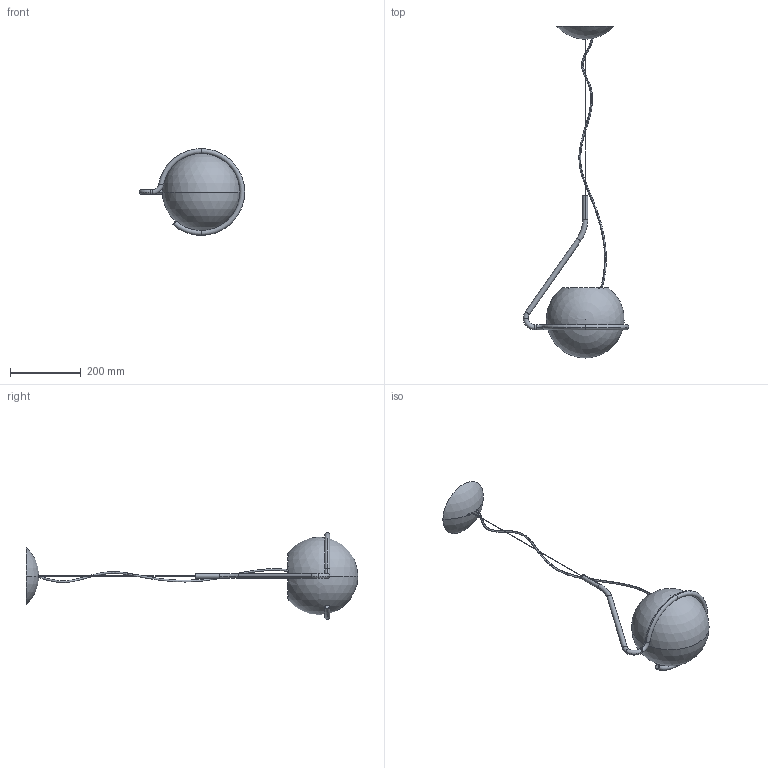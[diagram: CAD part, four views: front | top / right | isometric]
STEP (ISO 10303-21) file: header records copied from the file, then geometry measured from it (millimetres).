
FILE_DESCRIPTION (( 'STEP AP203' ), '1' );
FILE_NAME ('318_PICCOLA_S_PL_3D.STEP', '2022-06-22T10:55:47', ( '' ), ( '' ), 'SwSTEP 2.0', 'SolidWorks 2022', '' );
FILE_SCHEMA (( 'CONFIG_CONTROL_DESIGN' ));
Length unit declared in the file: millimetre
Products named in the file (1): 318_PICCOLA_S_PL_3D
Bounding box: 298.51 x 940 x 246 mm (x, y, z)
Volume: 1043662.5 mm3; surface area: 409363.5 mm2
Topology: 4 solids, 4 shells, 73 faces, 169 edges, 103 vertices
Faces by surface type: torus 22, cylinder 16, plane 11, cone 10, sphere 8, bspline 6
Entity records: 4240 total; most frequent: CARTESIAN_POINT 2544, DIRECTION 382, ORIENTED_EDGE 314, AXIS2_PLACEMENT_3D 178, EDGE_CURVE 157, CIRCLE 110, VERTEX_POINT 97, EDGE_LOOP 78
